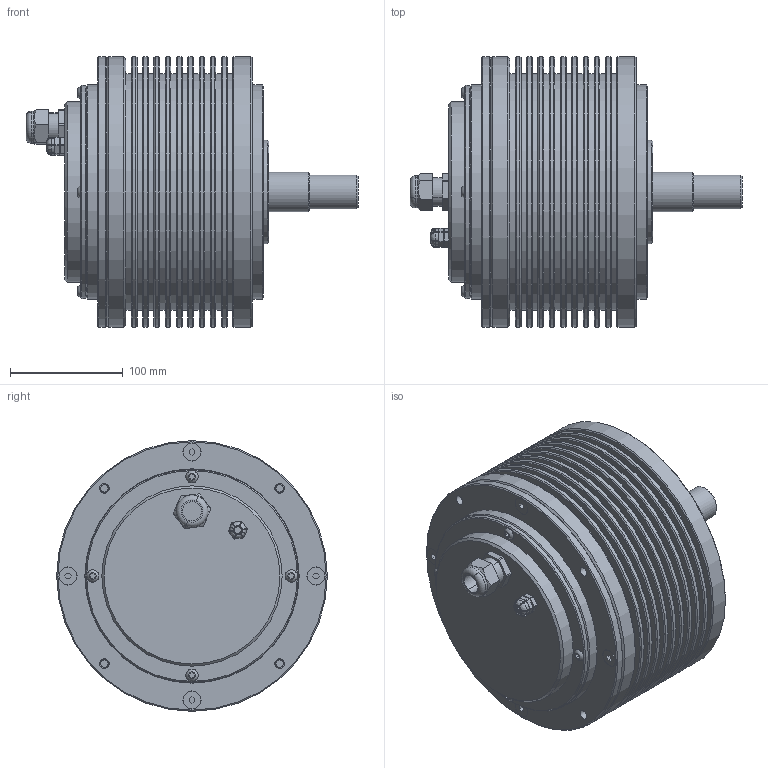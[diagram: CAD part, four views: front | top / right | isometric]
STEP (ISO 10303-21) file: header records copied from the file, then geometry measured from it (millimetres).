
FILE_DESCRIPTION(/* description */ ('Alibre Inc.'),/* implementation_level */ '2;1');
FILE_NAME(/* name */ 'export-75313E89-8BCD-41ED-9C1A-92BD6D908EAD',/* time_stamp */ '2021-06-18T10:29:10+02:00',/* author */ (''),/* organization */ (''),/* preprocessor_version */ 'ST-DEVELOPER v17',/* originating_system */ 'Alibre',/* authorisation */ '');
FILE_SCHEMA (('AUTOMOTIVE_DESIGN'));
Length unit declared in the file: millimetre
Products named in the file (27): 1420; 40618; EMBASE_12_4_POLY; JOINT_ISO12_4_DESOP; ECROU_12_4_POLY; 10187; 41162; 1413; 40641; 40614; 40615; 40744; 35698; 35702; 35697; 35701; 35696; 35694; 35703; 40626; 40750; 47292; 38809; 47294; 47297; 47289
Bounding box: 294.52 x 240 x 240 mm (x, y, z)
Volume: 2649764.5 mm3; surface area: 776670.4 mm2
Topology: 28 solids, 28 shells, 646 faces, 1499 edges, 963 vertices
Faces by surface type: cylinder 239, plane 238, cone 97, torus 35, bspline 29, sphere 8
Full cylindrical faces by diameter (mm): 2.013 x4, 2.459 x2, 3 x3, 4.917 x4, 6 x4, 6.5 x4, 6.647 x17, 8 x5, 8.5 x8, 10.376 x1, 11 x4, 23.376 x1, 26 x1, 29.75 x1, 30 x1, 34.98 x2, 35 x2, 42.5 x1, 44 x2, 47 x1, 48 x1, 54 x1, 55 x1, 60 x1, 72 x2, 72.1 x2, 75 x1, 92 x1, 154 x1, 160 x3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
Entity records: 22185 total; most frequent: CARTESIAN_POINT 9449, DIRECTION 2447, ORIENTED_EDGE 2142, AXIS2_PLACEMENT_3D 1161, EDGE_CURVE 1071, FACE_BOUND 919, EDGE_LOOP 912, VERTEX_POINT 806
